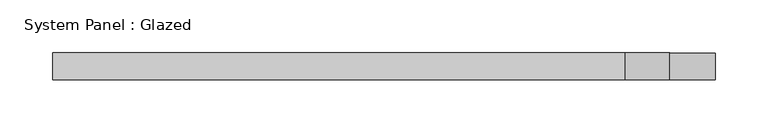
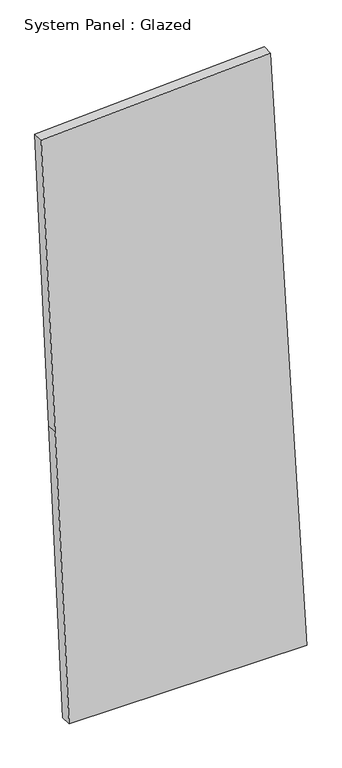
"""IFC4 building model written with IfcOpenShell, lengths in millimetres: plate geometry, System Panel : Glazed."""

from ifc_helpers import new_model, si_unit, frame, origin, place, context, project, spatial, polyline, outline, extrude, source, transform, mapped, element, save


def system_panel_glazed_0a476fa9(model_context):
    return source(origin(), model_context, "Body", "SweptSolid", [
        extrude(outline(polyline([(0.0, -247.5543331), (0.0, 313.3431286), (751.1307812, 270.5564824), (1504.3122702, 227.6530218), (1476.8206921, -313.3431286), (739.0022228, -280.4750975), (0.0, -247.5543331)])), frame((0.0, -44.45, 0.0), z_axis=(0.0, 1.0, 0.0), x_axis=(0.0, 0.0, 1.0)), (0.0, 0.0, 1.0), 25.4),
    ])


if __name__ == "__main__":
    model = new_model("IFC4")
    model_context = context("Model", 3, world=origin())
    ifc_project = project(units=[si_unit("LENGTHUNIT", "METRE", prefix="MILLI")], contexts=[model_context])
    site = spatial("IfcSite", under=ifc_project)
    building = spatial("IfcBuilding", under=site)
    placement = place(None, origin())
    system_panel_glazed_shape = system_panel_glazed_0a476fa9(model_context)
    element("IfcPlate", 1, ObjectType="System Panel : Glazed", at=placement, inside=building, context=model_context, shape_type="MappedRepresentation", body=[
        mapped(system_panel_glazed_shape, transform((0.0, 0.0, 0.0), x_axis=(1.0, 0.0, 0.0), y_axis=(0.0, 1.0, 0.0), z_axis=(0.0, 0.0, 1.0))),
    ])
    save(model, "model.ifc")
